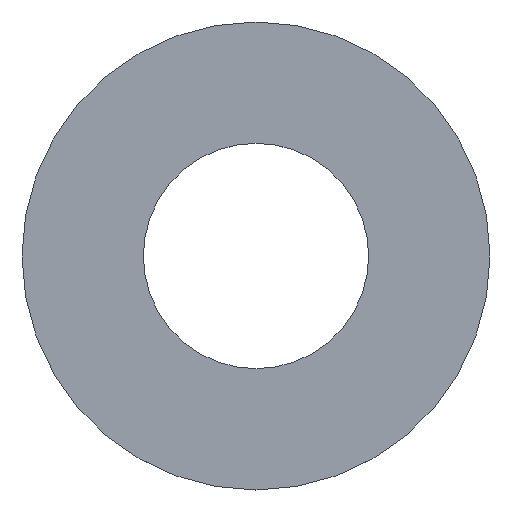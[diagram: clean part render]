
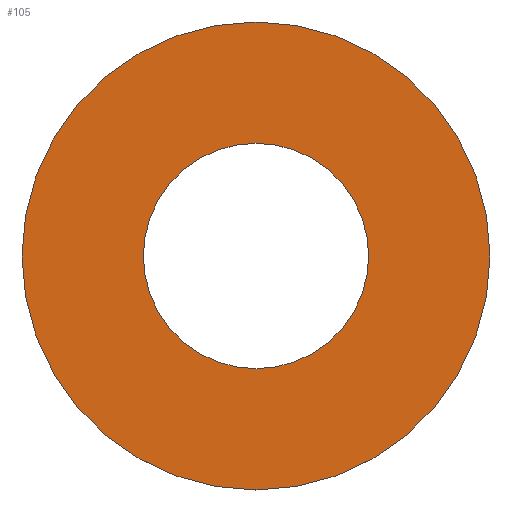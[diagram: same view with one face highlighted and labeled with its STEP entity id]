
A CAD part, top view. The second image highlights one B-rep face of the part: STEP entity #105.
In plain terms, the highlighted planar face has unit normal (0, 0, 1).
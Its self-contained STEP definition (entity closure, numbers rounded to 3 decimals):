
#21 = EDGE_CURVE('',#22,#22,#24,.T.);
#22 = VERTEX_POINT('',#23);
#23 = CARTESIAN_POINT('',(-167.,-265.913,2.5));
#24 = SURFACE_CURVE('',#25,(#30,#42),.PCURVE_S1.);
#25 = CIRCLE('',#26,38.);
#26 = AXIS2_PLACEMENT_3D('',#27,#28,#29);
#27 = CARTESIAN_POINT('',(-205.,-265.913,2.5));
#28 = DIRECTION('',(0.,0.,1.));
#29 = DIRECTION('',(1.,0.,-0.));
#30 = PCURVE('',#31,#36);
#31 = CYLINDRICAL_SURFACE('',#32,38.);
#32 = AXIS2_PLACEMENT_3D('',#33,#34,#35);
#33 = CARTESIAN_POINT('',(-205.,-265.913,2.));
#34 = DIRECTION('',(0.,0.,1.));
#35 = DIRECTION('',(1.,0.,-0.));
#36 = DEFINITIONAL_REPRESENTATION('',(#37),#41);
#37 = LINE('',#38,#39);
#38 = CARTESIAN_POINT('',(0.,0.5));
#39 = VECTOR('',#40,1.);
#40 = DIRECTION('',(1.,0.));
#41 = ( GEOMETRIC_REPRESENTATION_CONTEXT(2) 
PARAMETRIC_REPRESENTATION_CONTEXT() REPRESENTATION_CONTEXT('2D SPACE',''
  ) );
#42 = PCURVE('',#43,#48);
#43 = PLANE('',#44);
#44 = AXIS2_PLACEMENT_3D('',#45,#46,#47);
#45 = CARTESIAN_POINT('',(-205.,-265.913,2.5));
#46 = DIRECTION('',(0.,0.,1.));
#47 = DIRECTION('',(1.,0.,-0.));
#48 = DEFINITIONAL_REPRESENTATION('',(#49),#53);
#49 = CIRCLE('',#50,38.);
#50 = AXIS2_PLACEMENT_2D('',#51,#52);
#51 = CARTESIAN_POINT('',(0.,0.));
#52 = DIRECTION('',(1.,0.));
#53 = ( GEOMETRIC_REPRESENTATION_CONTEXT(2) 
PARAMETRIC_REPRESENTATION_CONTEXT() REPRESENTATION_CONTEXT('2D SPACE',''
  ) );
#105 = ADVANCED_FACE('',(#106,#109),#43,.T.);
#106 = FACE_BOUND('',#107,.T.);
#107 = EDGE_LOOP('',(#108));
#108 = ORIENTED_EDGE('',*,*,#21,.T.);
#109 = FACE_BOUND('',#110,.T.);
#110 = EDGE_LOOP('',(#111));
#111 = ORIENTED_EDGE('',*,*,#112,.F.);
#112 = EDGE_CURVE('',#113,#113,#115,.T.);
#113 = VERTEX_POINT('',#114);
#114 = CARTESIAN_POINT('',(-186.7,-265.913,2.5));
#115 = SURFACE_CURVE('',#116,(#121,#128),.PCURVE_S1.);
#116 = CIRCLE('',#117,18.3);
#117 = AXIS2_PLACEMENT_3D('',#118,#119,#120);
#118 = CARTESIAN_POINT('',(-205.,-265.913,2.5));
#119 = DIRECTION('',(0.,0.,1.));
#120 = DIRECTION('',(1.,0.,-0.));
#121 = PCURVE('',#43,#122);
#122 = DEFINITIONAL_REPRESENTATION('',(#123),#127);
#123 = CIRCLE('',#124,18.3);
#124 = AXIS2_PLACEMENT_2D('',#125,#126);
#125 = CARTESIAN_POINT('',(0.,0.));
#126 = DIRECTION('',(1.,0.));
#127 = ( GEOMETRIC_REPRESENTATION_CONTEXT(2) 
PARAMETRIC_REPRESENTATION_CONTEXT() REPRESENTATION_CONTEXT('2D SPACE',''
  ) );
#128 = PCURVE('',#129,#134);
#129 = CYLINDRICAL_SURFACE('',#130,18.3);
#130 = AXIS2_PLACEMENT_3D('',#131,#132,#133);
#131 = CARTESIAN_POINT('',(-205.,-265.913,2.));
#132 = DIRECTION('',(0.,0.,1.));
#133 = DIRECTION('',(1.,0.,-0.));
#134 = DEFINITIONAL_REPRESENTATION('',(#135),#139);
#135 = LINE('',#136,#137);
#136 = CARTESIAN_POINT('',(0.,0.5));
#137 = VECTOR('',#138,1.);
#138 = DIRECTION('',(1.,0.));
#139 = ( GEOMETRIC_REPRESENTATION_CONTEXT(2) 
PARAMETRIC_REPRESENTATION_CONTEXT() REPRESENTATION_CONTEXT('2D SPACE',''
  ) );
